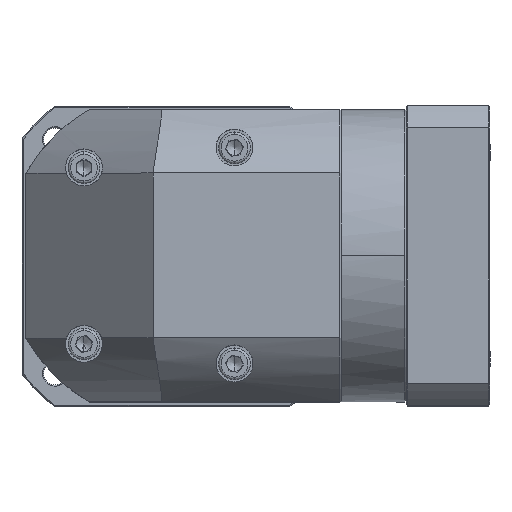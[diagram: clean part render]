
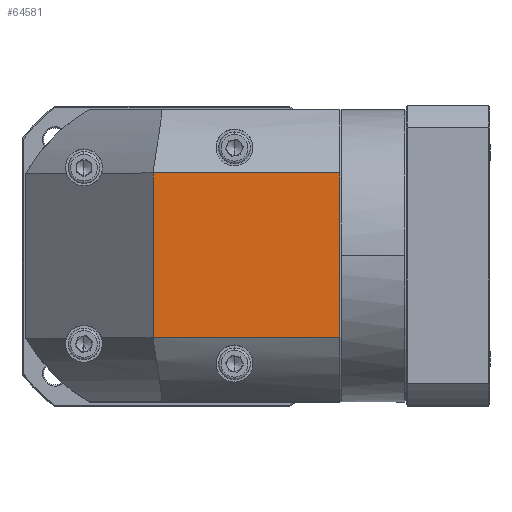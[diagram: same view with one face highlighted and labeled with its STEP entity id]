
A CAD part, top view. The second image highlights one B-rep face of the part: STEP entity #64581.
In plain terms, the highlighted planar face has unit normal (0, 0, 1).
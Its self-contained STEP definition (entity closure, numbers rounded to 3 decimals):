
#12538 = EDGE_LOOP ( 'NONE', ( #71622, #111588, #125130, #90471 ) ) ;
#14394 = DIRECTION ( 'NONE',  ( 0., 0., -1. ) ) ;
#14853 = PLANE ( 'NONE',  #105555 ) ;
#16232 = DIRECTION ( 'NONE',  ( 0., -1., 0. ) ) ;
#17687 = VECTOR ( 'NONE', #35848, 1000. ) ;
#24328 = EDGE_CURVE ( 'NONE', #77611, #60941, #98814, .T. ) ;
#28198 = VECTOR ( 'NONE', #60846, 1000. ) ;
#29639 = EDGE_CURVE ( 'NONE', #60941, #57339, #132099, .T. ) ;
#35562 = DIRECTION ( 'NONE',  ( 0., -1., 0. ) ) ;
#35848 = DIRECTION ( 'NONE',  ( 0., 1., 0. ) ) ;
#37803 = CARTESIAN_POINT ( 'NONE',  ( -7.768, 29.558, 60.212 ) ) ;
#43454 = FACE_OUTER_BOUND ( 'NONE', #12538, .T. ) ;
#45074 = CARTESIAN_POINT ( 'NONE',  ( 42.232, 94.358, 60.212 ) ) ;
#56703 = EDGE_CURVE ( 'NONE', #76246, #77611, #63887, .T. ) ;
#57339 = VERTEX_POINT ( 'NONE', #96059 ) ;
#57735 = CARTESIAN_POINT ( 'NONE',  ( 115.632, 119.458, 60.212 ) ) ;
#60846 = DIRECTION ( 'NONE',  ( -1., 0., 0. ) ) ;
#60941 = VERTEX_POINT ( 'NONE', #45074 ) ;
#63887 = LINE ( 'NONE', #37803, #28198 ) ;
#64581 = ADVANCED_FACE ( 'NONE', ( #43454 ), #14853, .F. ) ;
#69605 = CARTESIAN_POINT ( 'NONE',  ( 42.232, 29.558, 60.212 ) ) ;
#71622 = ORIENTED_EDGE ( 'NONE', *, *, #29639, .F. ) ;
#75071 = LINE ( 'NONE', #57735, #86388 ) ;
#76227 = CARTESIAN_POINT ( 'NONE',  ( 42.232, 119.458, 60.212 ) ) ;
#76246 = VERTEX_POINT ( 'NONE', #96857 ) ;
#77611 = VERTEX_POINT ( 'NONE', #69605 ) ;
#83455 = CARTESIAN_POINT ( 'NONE',  ( -7.768, 94.358, 60.212 ) ) ;
#86388 = VECTOR ( 'NONE', #16232, 1000. ) ;
#90471 = ORIENTED_EDGE ( 'NONE', *, *, #131401, .F. ) ;
#96059 = CARTESIAN_POINT ( 'NONE',  ( 115.632, 94.358, 60.212 ) ) ;
#96318 = VECTOR ( 'NONE', #114413, 1000. ) ;
#96857 = CARTESIAN_POINT ( 'NONE',  ( 115.632, 29.558, 60.212 ) ) ;
#98814 = LINE ( 'NONE', #76227, #17687 ) ;
#105555 = AXIS2_PLACEMENT_3D ( 'NONE', #106428, #14394, #35562 ) ;
#106428 = CARTESIAN_POINT ( 'NONE',  ( 49.732, 61.958, 60.212 ) ) ;
#111588 = ORIENTED_EDGE ( 'NONE', *, *, #24328, .F. ) ;
#114413 = DIRECTION ( 'NONE',  ( 1., 0., 0. ) ) ;
#125130 = ORIENTED_EDGE ( 'NONE', *, *, #56703, .F. ) ;
#131401 = EDGE_CURVE ( 'NONE', #57339, #76246, #75071, .T. ) ;
#132099 = LINE ( 'NONE', #83455, #96318 ) ;
